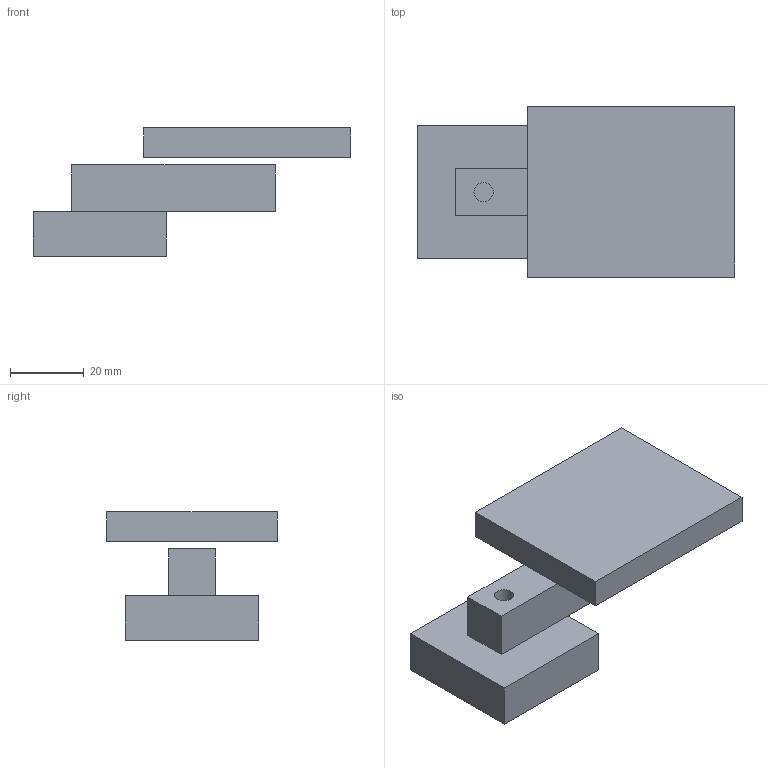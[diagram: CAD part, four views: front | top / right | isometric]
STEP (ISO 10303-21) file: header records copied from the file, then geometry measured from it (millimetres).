
FILE_DESCRIPTION(('Open CASCADE Model'),'2;1');
FILE_NAME('Open CASCADE Shape Model','2026-09-10T23:36:52',('Author'),( 'Open CASCADE'),'Open CASCADE STEP processor 7.9','Open CASCADE 7.9' ,'Unknown');
FILE_SCHEMA(('AUTOMOTIVE_DESIGN { 1 0 10303 214 1 1 1 1 }'));
Length unit declared in the file: millimetre
Products named in the file (4): LoadCell_Subassembly; TAL220B; Fixed_Pedestal_Concept; Floating_Platform_Concept
Assembly tree (3 placements, depth 2):
  LoadCell_Subassembly
    TAL220B
    Fixed_Pedestal_Concept
    Floating_Platform_Concept
Bounding box: 86 x 46 x 34.7 mm (x, y, z)
Volume: 44491.5 mm3; surface area: 14550.6 mm2
Topology: 3 solids, 3 shells, 20 faces, 42 edges, 28 vertices
Faces by surface type: plane 18, cylinder 2
Full cylindrical faces by diameter (mm): 5.2 x2
Entity records: 1156 total; most frequent: CARTESIAN_POINT 202, DIRECTION 174, LINE 118, VECTOR 118, ORIENTED_EDGE 84, PCURVE 84, DEFINITIONAL_REPRESENTATION 84, EDGE_CURVE 42
